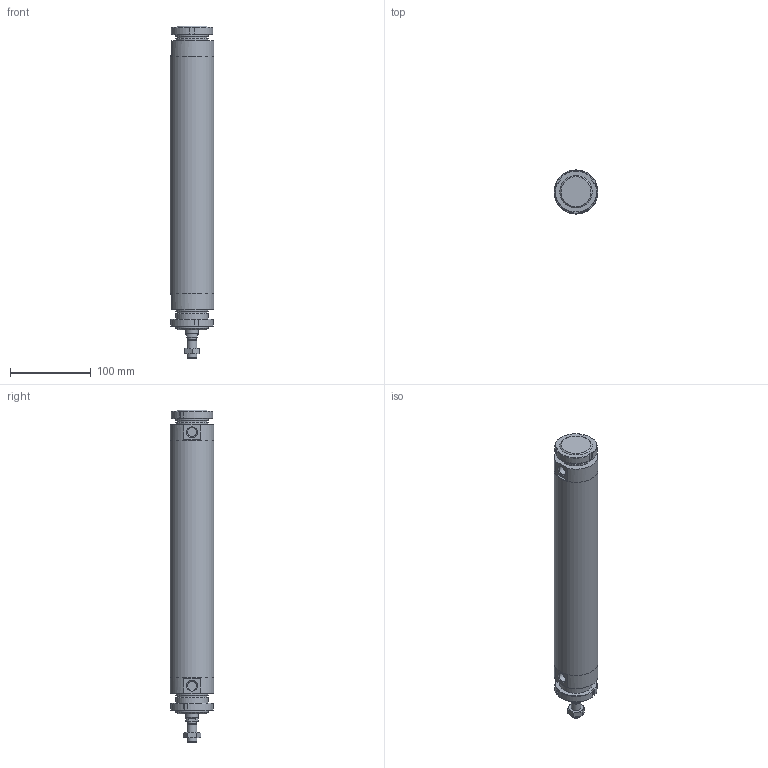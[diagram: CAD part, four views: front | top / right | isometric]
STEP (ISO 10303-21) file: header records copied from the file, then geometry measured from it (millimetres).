
FILE_DESCRIPTION(/* description */ (''),/* implementation_level */ '2;1');
FILE_NAME(/* name */ 'I:\Area Tecnica\Documenti\A-Manieri\_Inventor\12X\12X#C_###_####_#_#\12XAC_050_0250_#_#.stp',/* time_stamp */ '2015-04-28T15:20:02+02:00',/* author */ ('maniean1'),/* organization */ ('Pneumax S.p.A.'),/* preprocessor_version */ 'ST-DEVELOPER v15.2',/* originating_system */ 'Autodesk Inventor 2014',/* authorisation */ '');
FILE_SCHEMA (('AUTOMOTIVE_DESIGN { 1 0 10303 214 3 1 1 }'));
Length unit declared in the file: millimetre
Products named in the file (7): C1250_619-0250; 12X50_604; S12X50_0250; 12X_50_11; 12X50_620; G12X_050_05; 12XAC_050_0250_#_#
Bounding box: 54 x 54 x 410 mm (x, y, z)
Volume: 393368.7 mm3; surface area: 155954.5 mm2
Topology: 7 solids, 7 shells, 106 faces, 240 edges, 154 vertices
Faces by surface type: plane 52, cylinder 27, cone 27
Full cylindrical faces by diameter (mm): 10.2 x1, 11.4 x2, 12 x2, 14 x1, 15.6 x1, 16 x1, 38.2 x2, 40 x6, 50 x2, 54 x3
Entity records: 2243 total; most frequent: CARTESIAN_POINT 413, DIRECTION 382, ORIENTED_EDGE 292, AXIS2_PLACEMENT_3D 165, EDGE_CURVE 146, EDGE_LOOP 132, VERTEX_POINT 112, ADVANCED_FACE 85
